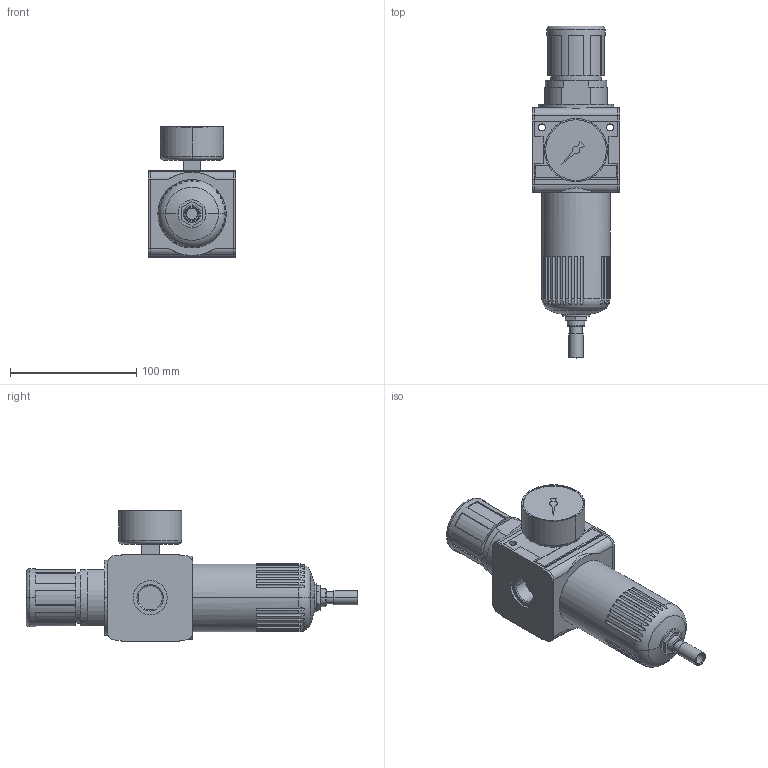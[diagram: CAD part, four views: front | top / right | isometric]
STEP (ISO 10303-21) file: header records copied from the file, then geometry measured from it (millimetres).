
FILE_DESCRIPTION((''),'2;1');
FILE_NAME('0821300353_ASM','2019-10-24T',('hug2hc'),(''),'CREO PARAMETRIC BY PTC INC, 2016260','CREO PARAMETRIC BY PTC INC, 2016260','');
FILE_SCHEMA(('CONFIG_CONTROL_DESIGN'));
Length unit declared in the file: millimetre
Products named in the file (5): NL4-BODY-FRE-FRONT_CONN-G12; NL4-RESERVOIR-PC-AUTO-FRE; NL4-MANOMETER; NL4-CAP-G12; 0821300353_ASM
Assembly tree (5 placements, depth 2):
  0821300353_ASM
    NL4-BODY-FRE-FRONT_CONN-G12
    NL4-RESERVOIR-PC-AUTO-FRE
    NL4-MANOMETER
    NL4-CAP-G12  x2
Bounding box: 69.6 x 262.8 x 103.5 mm (x, y, z)
Volume: 680978.7 mm3; surface area: 93055.2 mm2
Topology: 5 solids, 5 shells, 347 faces, 924 edges, 607 vertices
Faces by surface type: plane 214, cylinder 103, cone 22, torus 6, sphere 2
Entity records: 11570 total; most frequent: CARTESIAN_POINT 3283, DIRECTION 1745, ORIENTED_EDGE 1692, EDGE_CURVE 846, AXIS2_PLACEMENT_3D 602, VERTEX_POINT 555, VECTOR 541, LINE 541
